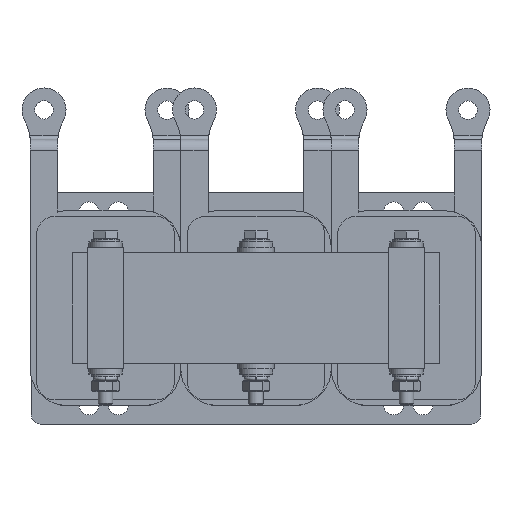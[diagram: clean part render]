
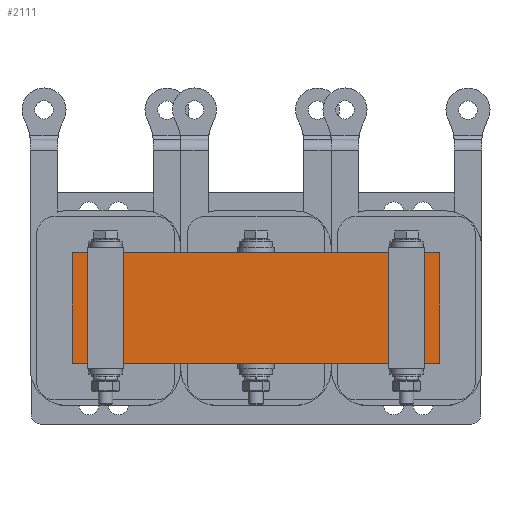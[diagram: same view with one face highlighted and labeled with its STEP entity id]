
A CAD part, top view. The second image highlights one B-rep face of the part: STEP entity #2111.
In plain terms, the highlighted planar face has unit normal (0, 0, 1).
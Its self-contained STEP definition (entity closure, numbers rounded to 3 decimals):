
#2111=ADVANCED_FACE('',(#2921),#2923,.T.);
#2921=FACE_BOUND('',#2922,.T.);
#2922=EDGE_LOOP('',(#3991,#3992,#3993,#3994));
#2923=PLANE('',#2924);
#2924=AXIS2_PLACEMENT_3D('',#2925,#2926,#2927);
#2925=CARTESIAN_POINT('',(0.,0.,38.));
#2926=DIRECTION('',(0.,0.,1.));
#2927=DIRECTION('',(-1.,0.,0.));
#3991=ORIENTED_EDGE('',*,*,#4523,.T.);
#3992=ORIENTED_EDGE('',*,*,#4516,.T.);
#3993=ORIENTED_EDGE('',*,*,#4524,.T.);
#3994=ORIENTED_EDGE('',*,*,#4509,.T.);
#4509=EDGE_CURVE('',#5049,#5047,#5050,.T.);
#4516=EDGE_CURVE('',#5063,#5061,#5064,.T.);
#4523=EDGE_CURVE('',#5047,#5063,#5074,.T.);
#4524=EDGE_CURVE('',#5061,#5049,#5075,.T.);
#5047=VERTEX_POINT('',#6597);
#5049=VERTEX_POINT('',#6601);
#5050=LINE('',#6602,#6603);
#5061=VERTEX_POINT('',#6628);
#5063=VERTEX_POINT('',#6632);
#5064=LINE('',#6633,#6634);
#5074=LINE('',#6660,#6661);
#5075=LINE('',#6663,#6664);
#6597=CARTESIAN_POINT('',(-100.,30.,38.));
#6601=CARTESIAN_POINT('',(100.,30.,38.));
#6602=CARTESIAN_POINT('',(100.,30.,38.));
#6603=VECTOR('',#6604,1.);
#6604=DIRECTION('',(-1.,0.,0.));
#6628=CARTESIAN_POINT('',(100.,-30.,38.));
#6632=CARTESIAN_POINT('',(-100.,-30.,38.));
#6633=CARTESIAN_POINT('',(-100.,-30.,38.));
#6634=VECTOR('',#6635,1.);
#6635=DIRECTION('',(1.,0.,0.));
#6660=CARTESIAN_POINT('',(-100.,30.,38.));
#6661=VECTOR('',#6662,1.);
#6662=DIRECTION('',(0.,-1.,0.));
#6663=CARTESIAN_POINT('',(100.,-30.,38.));
#6664=VECTOR('',#6665,1.);
#6665=DIRECTION('',(0.,1.,0.));
